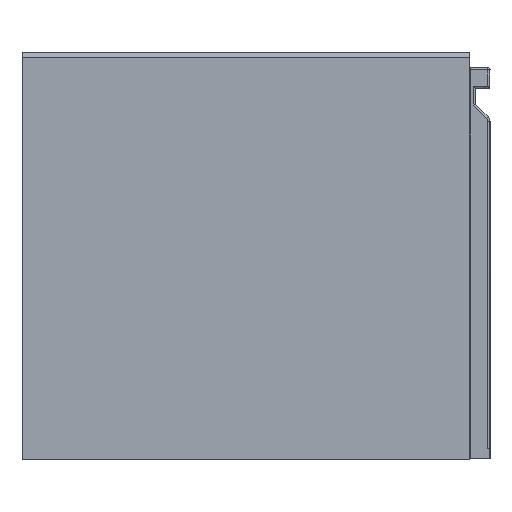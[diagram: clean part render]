
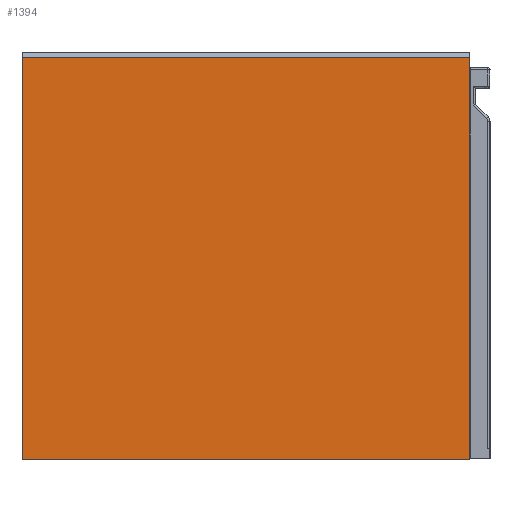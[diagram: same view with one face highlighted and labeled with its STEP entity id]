
A CAD part, left-side view. The second image highlights one B-rep face of the part: STEP entity #1394.
In plain terms, the highlighted planar face has unit normal (-1, 0, 0).
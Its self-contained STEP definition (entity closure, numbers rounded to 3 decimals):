
#1394=ADVANCED_FACE('',(#2253),#14521,.T.);
#2253=FACE_OUTER_BOUND('',#3112,.T.);
#3112=EDGE_LOOP('',(#4082,#4083,#4084,#4085));
#4082=ORIENTED_EDGE('',*,*,#8791,.F.);
#4083=ORIENTED_EDGE('',*,*,#8792,.T.);
#4084=ORIENTED_EDGE('',*,*,#8793,.T.);
#4085=ORIENTED_EDGE('',*,*,#8794,.T.);
#8791=EDGE_CURVE('',#12933,#12930,#11146,.T.);
#8792=EDGE_CURVE('',#12933,#12934,#11147,.T.);
#8793=EDGE_CURVE('',#12934,#12935,#11148,.T.);
#8794=EDGE_CURVE('',#12935,#12930,#11149,.T.);
#11146=B_SPLINE_CURVE_WITH_KNOTS('',1,(#17186,#17187),.UNSPECIFIED.,.F.,
 .F.,(2,2),(0.,430.),.UNSPECIFIED.);
#11147=B_SPLINE_CURVE_WITH_KNOTS('',1,(#17188,#17189),.UNSPECIFIED.,.F.,
 .F.,(2,2),(-387.,0.),.UNSPECIFIED.);
#11148=B_SPLINE_CURVE_WITH_KNOTS('',1,(#17190,#17191),.UNSPECIFIED.,.F.,
 .F.,(2,2),(-430.,0.),.UNSPECIFIED.);
#11149=B_SPLINE_CURVE_WITH_KNOTS('',1,(#17192,#17193),.UNSPECIFIED.,.F.,
 .F.,(2,2),(0.,387.),.UNSPECIFIED.);
#12930=VERTEX_POINT('',#17170);
#12933=VERTEX_POINT('',#17173);
#12934=VERTEX_POINT('',#17174);
#12935=VERTEX_POINT('',#17175);
#14521=PLANE('',#15694);
#15694=AXIS2_PLACEMENT_3D('',#17164,#16390,$);
#16390=DIRECTION('',(-1.,0.,0.));
#17164=CARTESIAN_POINT('',(-7911.826,-10876.937,-1904.111));
#17170=CARTESIAN_POINT('',(-7911.826,-10833.817,-1478.291));
#17173=CARTESIAN_POINT('',(-7911.826,-10403.817,-1478.291));
#17174=CARTESIAN_POINT('',(-7911.826,-10403.817,-1865.291));
#17175=CARTESIAN_POINT('',(-7911.826,-10833.817,-1865.291));
#17186=CARTESIAN_POINT('',(-7911.826,-10403.817,-1478.291));
#17187=CARTESIAN_POINT('',(-7911.826,-10833.817,-1478.291));
#17188=CARTESIAN_POINT('',(-7911.826,-10403.817,-1478.291));
#17189=CARTESIAN_POINT('',(-7911.826,-10403.817,-1865.291));
#17190=CARTESIAN_POINT('',(-7911.826,-10403.817,-1865.291));
#17191=CARTESIAN_POINT('',(-7911.826,-10833.817,-1865.291));
#17192=CARTESIAN_POINT('',(-7911.826,-10833.817,-1865.291));
#17193=CARTESIAN_POINT('',(-7911.826,-10833.817,-1478.291));
